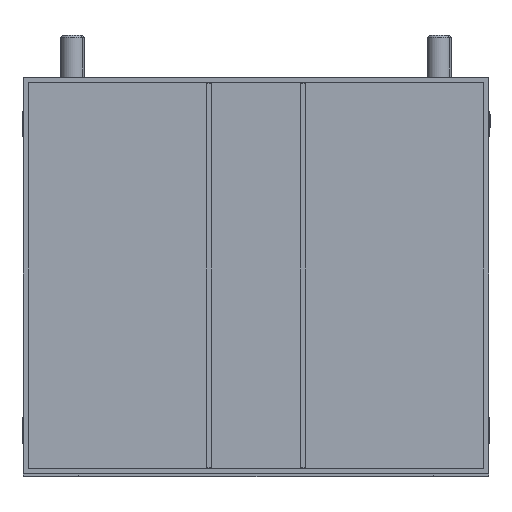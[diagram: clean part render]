
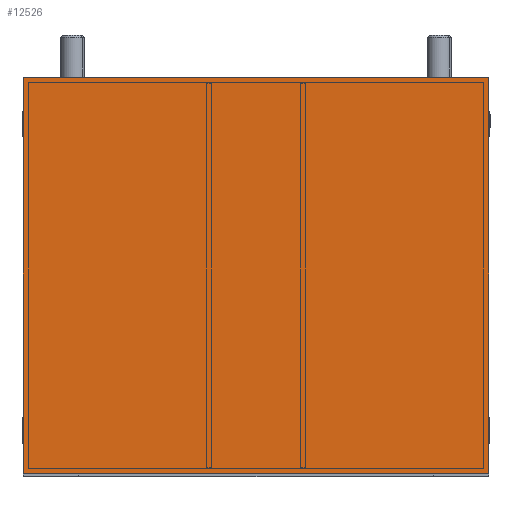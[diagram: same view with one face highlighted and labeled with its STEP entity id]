
A CAD part, top view. The second image highlights one B-rep face of the part: STEP entity #12526.
In plain terms, the highlighted planar face has unit normal (0, 0, 1) as drawn and (0, 0, -1) by its records, which use the part's own axes.
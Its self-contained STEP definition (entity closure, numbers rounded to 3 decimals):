
#150 = ORIENTED_EDGE ( 'NONE', *, *, #2715, .F. ) ;
#205 = LINE ( 'NONE', #6368, #5719 ) ;
#325 = AXIS2_PLACEMENT_3D ( 'NONE', #2665, #1652, #9920 ) ;
#712 = CARTESIAN_POINT ( 'NONE',  ( -117.75, -100., -2.5 ) ) ;
#1079 = VERTEX_POINT ( 'NONE', #7638 ) ;
#1530 = DIRECTION ( 'NONE',  ( -1., 0., 0. ) ) ;
#1652 = DIRECTION ( 'NONE',  ( 0., 0., -1. ) ) ;
#2204 = VERTEX_POINT ( 'NONE', #712 ) ;
#2594 = DIRECTION ( 'NONE',  ( 0., -1., 0. ) ) ;
#2665 = CARTESIAN_POINT ( 'NONE',  ( 0., 0., -2.5 ) ) ;
#2715 = EDGE_CURVE ( 'NONE', #3410, #2204, #3483, .T. ) ;
#3246 = VERTEX_POINT ( 'NONE', #12626 ) ;
#3410 = VERTEX_POINT ( 'NONE', #9978 ) ;
#3483 = LINE ( 'NONE', #10919, #4287 ) ;
#3733 = EDGE_CURVE ( 'NONE', #1079, #3246, #11591, .T. ) ;
#4287 = VECTOR ( 'NONE', #2594, 1000. ) ;
#4702 = FACE_OUTER_BOUND ( 'NONE', #12812, .T. ) ;
#5015 = ORIENTED_EDGE ( 'NONE', *, *, #8851, .F. ) ;
#5719 = VECTOR ( 'NONE', #11579, 1000. ) ;
#6017 = VECTOR ( 'NONE', #6381, 1000. ) ;
#6368 = CARTESIAN_POINT ( 'NONE',  ( 0., -100., -2.5 ) ) ;
#6381 = DIRECTION ( 'NONE',  ( 0., 1., 0. ) ) ;
#6471 = ORIENTED_EDGE ( 'NONE', *, *, #6940, .F. ) ;
#6763 = VECTOR ( 'NONE', #1530, 1000. ) ;
#6940 = EDGE_CURVE ( 'NONE', #2204, #1079, #205, .T. ) ;
#7380 = CARTESIAN_POINT ( 'NONE',  ( 117.75, 0., -2.5 ) ) ;
#7638 = CARTESIAN_POINT ( 'NONE',  ( 117.75, -100., -2.5 ) ) ;
#8851 = EDGE_CURVE ( 'NONE', #3246, #3410, #11693, .T. ) ;
#9835 = ORIENTED_EDGE ( 'NONE', *, *, #3733, .F. ) ;
#9920 = DIRECTION ( 'NONE',  ( -1., 0., 0. ) ) ;
#9978 = CARTESIAN_POINT ( 'NONE',  ( -117.75, 100., -2.5 ) ) ;
#10919 = CARTESIAN_POINT ( 'NONE',  ( -117.75, 0., -2.5 ) ) ;
#11579 = DIRECTION ( 'NONE',  ( 1., 0., 0. ) ) ;
#11591 = LINE ( 'NONE', #7380, #6017 ) ;
#11693 = LINE ( 'NONE', #11823, #6763 ) ;
#11823 = CARTESIAN_POINT ( 'NONE',  ( 0., 100., -2.5 ) ) ;
#11952 = PLANE ( 'NONE',  #325 ) ;
#12526 = ADVANCED_FACE ( 'NONE', ( #4702 ), #11952, .T. ) ;
#12626 = CARTESIAN_POINT ( 'NONE',  ( 117.75, 100., -2.5 ) ) ;
#12812 = EDGE_LOOP ( 'NONE', ( #9835, #6471, #150, #5015 ) ) ;
